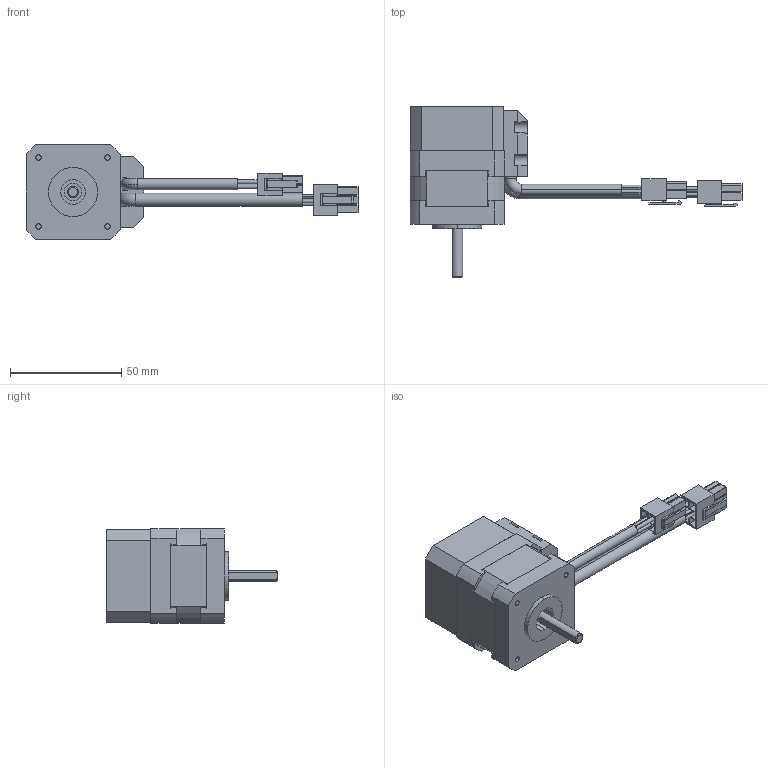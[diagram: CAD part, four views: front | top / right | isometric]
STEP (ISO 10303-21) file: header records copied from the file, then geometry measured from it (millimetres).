
FILE_DESCRIPTION (( 'STEP AP203' ), '1' );
FILE_NAME ('42HS250-015.STEP', '2020-07-08T08:11:50', ( 'Windows' ), ( 'Microsoft' ), 'SwSTEP 2.0', 'SolidWorks 2015', '' );
FILE_SCHEMA (( 'CONFIG_CONTROL_DESIGN' ));
Length unit declared in the file: millimetre
Products named in the file (11): 42隅赽16; M3蹟隊26; HX42000-6R; M3X46蹟隊; 42HS250-015; 晤鎢ん綴欶; 23x14.5邧揤盄裔; HX42000-4R; 42A-D19; 42B-D19; 粣
Assembly tree (12 placements, depth 2):
  42HS250-015
    42A-D19
    42B-D19
    粣
    42隅赽16
    M3蹟隊26  x2
    M3X46蹟隊  x2
    晤鎢ん綴欶
    23x14.5邧揤盄裔
    HX42000-4R
    HX42000-6R
Bounding box: 149.15 x 77 x 42.3 mm (x, y, z)
Volume: 99063.4 mm3; surface area: 41636.4 mm2
Topology: 16 solids, 16 shells, 630 faces, 1575 edges, 1028 vertices
Faces by surface type: plane 432, cylinder 169, bspline 16, cone 8, torus 5
Entity records: 18707 total; most frequent: CARTESIAN_POINT 3190, DIRECTION 2950, ORIENTED_EDGE 2914, EDGE_CURVE 1457, VECTOR 1106, LINE 1106, VERTEX_POINT 956, AXIS2_PLACEMENT_3D 922
